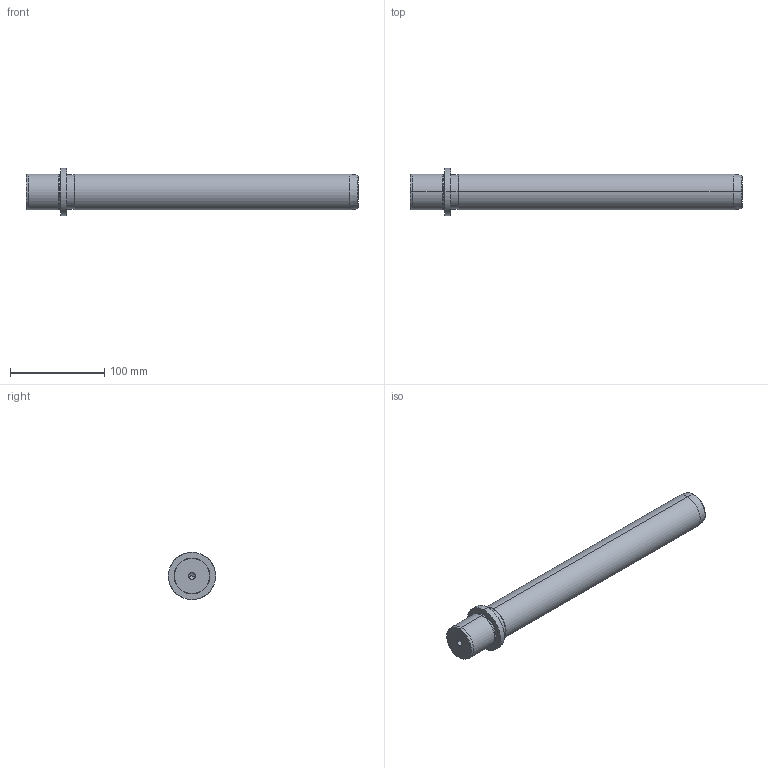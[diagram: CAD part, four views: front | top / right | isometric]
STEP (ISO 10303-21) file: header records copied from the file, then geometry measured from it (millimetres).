
FILE_DESCRIPTION(('CATIA V5 STEP Exchange'),'2;1');
FILE_NAME('C:\Users\Utente\Desktop\IO LAVORO\3D X SITO CF\X SITO\719\719-38x315.stp','2021-01-03T15:34:50+00:00',('none'),('none'),'CATIA Version 5 Release 20 GA (IN-10)','CATIA V5 STEP AP203','none');
FILE_SCHEMA(('CONFIG_CONTROL_DESIGN'));
Length unit declared in the file: millimetre
Products named in the file (1): 719-38x315
Bounding box: 352 x 50 x 50 mm (x, y, z)
Volume: 401003.9 mm3; surface area: 47029.6 mm2
Topology: 1 solids, 1 shells, 36 faces, 100 edges, 66 vertices
Faces by surface type: cone 16, cylinder 14, plane 4, torus 2
Entity records: 1267 total; most frequent: CARTESIAN_POINT 334, ORIENTED_EDGE 192, DIRECTION 159, EDGE_CURVE 96, AXIS2_PLACEMENT_3D 94, VERTEX_POINT 66, CIRCLE 57, EDGE_LOOP 40
